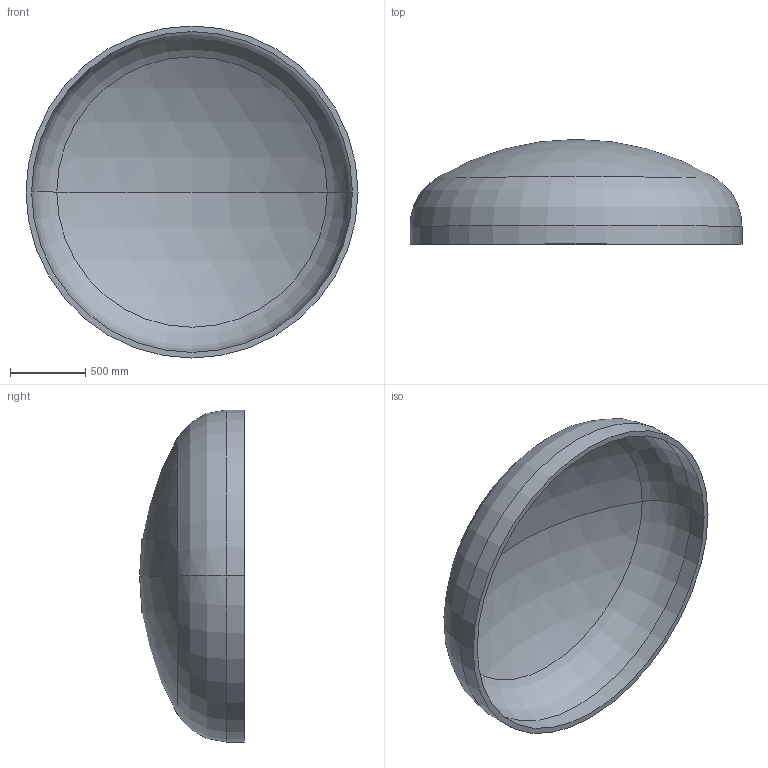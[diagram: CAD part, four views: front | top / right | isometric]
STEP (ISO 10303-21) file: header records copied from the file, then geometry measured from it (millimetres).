
FILE_DESCRIPTION (( 'STEP AP203' ), '1' );
FILE_NAME ('DIN 28013 Korbbogenform_-_Boden DIN 28013 - 2200 x 120 - I - s=37.step', '2016-07-01T14:33:31', ( '' ), ( '' ), 'SwSTEP 2.0', 'SolidWorks 2013', '' );
FILE_SCHEMA (( 'CONFIG_CONTROL_DESIGN' ));
Length unit declared in the file: millimetre
Products named in the file (1): DIN 28013 Korbbogenform_-_Boden DIN 28013 - 2200 x 120 - I - s=37
Bounding box: 2200 x 694.84 x 2200 mm (x, y, z)
Volume: 220826991.4 mm3; surface area: 12190882.2 mm2
Topology: 1 solids, 1 shells, 13 faces, 24 edges, 14 vertices
Faces by surface type: torus 4, cylinder 4, sphere 4, plane 1
Entity records: 407 total; most frequent: DIRECTION 72, CARTESIAN_POINT 52, ORIENTED_EDGE 48, AXIS2_PLACEMENT_3D 34, EDGE_CURVE 24, CIRCLE 20, VERTEX_POINT 14, EDGE_LOOP 14
